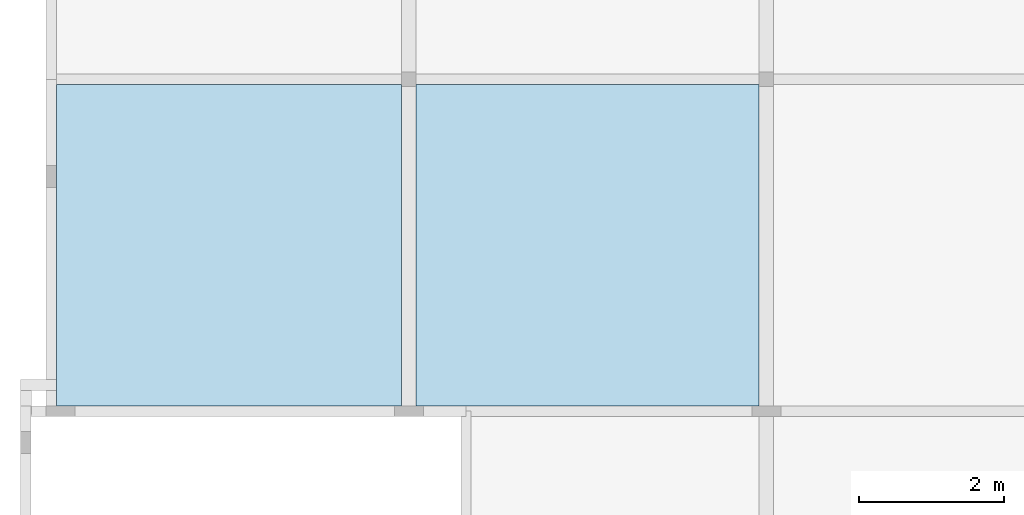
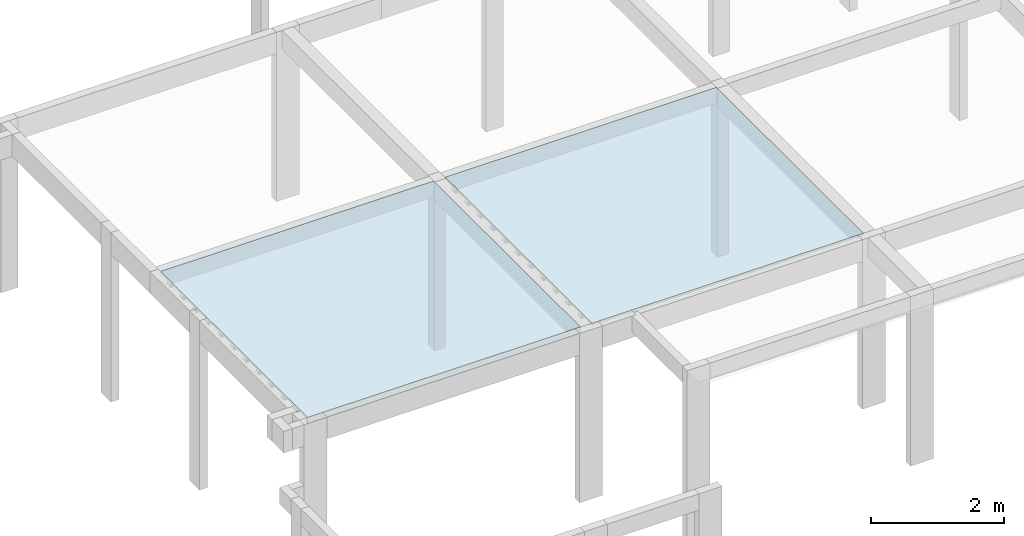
# One storey, part 3 of 7: 2 slabs.
"""IFC4 building model written with IfcOpenShell, lengths in centimetres."""

from ifc_helpers import new_model, si_unit, derived_unit, frame, origin_with_axes, place, context, project, spatial, polyline, outline, extrude, faceted_brep, material, element, save


model = new_model("IFC4")

# Units and contexts
model_context = context("Model", 3, precision=1e-05, world=origin_with_axes(), identifier="Body")
ifc_project = project(units=[si_unit("LENGTHUNIT", "METRE", prefix="CENTI"), si_unit("VOLUMEUNIT", "CUBIC_METRE"), si_unit("AREAUNIT", "SQUARE_METRE"), si_unit("POWERUNIT", "WATT"), si_unit("LUMINOUSFLUXUNIT", "LUMEN"), si_unit("ELECTRICCURRENTUNIT", "AMPERE"), si_unit("PRESSUREUNIT", "PASCAL", prefix="KILO"), si_unit("MASSUNIT", "GRAM", prefix="KILO"), si_unit("PLANEANGLEUNIT", "RADIAN"), derived_unit("VOLUMETRICFLOWRATEUNIT", [(si_unit("LENGTHUNIT", "METRE"), 3), (si_unit("TIMEUNIT", "SECOND"), -1)])], contexts=[model_context])

# Site, building, storey
site_placement = place(None, origin_with_axes())
site = spatial("IfcSite", under=ifc_project, at=site_placement)
building_placement = place(site_placement, frame((0.0, 0.0, 24.0)))
building = spatial("IfcBuilding", under=site, at=building_placement)
storey_placement = place(building_placement, frame((0.0, 0.0, 312.0), z_axis=(0.0, 0.0, 1.0), x_axis=(1.0, 0.0, 0.0)))
storey = spatial("IfcBuildingStorey", under=building, at=storey_placement, Name="RESPALDO", CompositionType="ELEMENT", Elevation=336.0)

# Slabs
ifc_material = material(Name="Concreto")
slab_1_placement = place(storey_placement, frame((271.28, 509.63, 0.0), z_axis=(0.0, 0.0, 1.0), x_axis=(1.0, 0.0, 0.0)))
element("IfcSlab", 1, at=slab_1_placement, inside=storey, material=ifc_material, Name="L7", PredefinedType="FLOOR", context=model_context, shape_type="SolidModel", body=[
    extrude(outline(polyline([(237.78, 221.63), (-237.78, 221.63), (-237.78, -221.63), (237.78, -221.63), (237.78, 221.63), (237.78, 221.63)])), frame((0.0, 0.0, -4.0), z_axis=(0.0, 0.0, 1.0), x_axis=(1.0, 0.0, 0.0)), (0.0, 0.0, 1.0), 4.0),
    faceted_brep([(-237.78, -217.63, -12.0), (237.78, -217.63, -12.0), (237.78, -221.63, -12.0), (-237.78, -221.63, -12.0), (-237.78, -221.63, -4.0), (237.78, -221.63, -4.0), (237.78, -217.63, -4.0), (-237.78, -217.63, -4.0)], [[[0, 1, 2, 3]], [[4, 5, 6, 7]], [[4, 3, 5]], [[3, 2, 5]], [[5, 2, 6]], [[2, 1, 6]], [[6, 1, 7]], [[1, 0, 7]], [[7, 0, 4]], [[0, 3, 4]]]),
    faceted_brep([(-237.78, -216.13, -12.0), (237.78, -216.13, -12.0), (237.78, -217.63, -12.0), (-237.78, -217.63, -12.0), (-237.78, -217.63, -9.0), (237.78, -217.63, -9.0), (237.78, -216.13, -9.0), (-237.78, -216.13, -9.0)], [[[0, 1, 2, 3]], [[4, 5, 6, 7]], [[4, 3, 5]], [[3, 2, 5]], [[5, 2, 6]], [[2, 1, 6]], [[6, 1, 7]], [[1, 0, 7]], [[7, 0, 4]], [[0, 3, 4]]]),
    faceted_brep([(-237.78, -179.63, -12.0), (237.78, -179.63, -12.0), (237.78, -187.63, -12.0), (-237.78, -187.63, -12.0), (-237.78, -187.63, -4.0), (237.78, -187.63, -4.0), (237.78, -179.63, -4.0), (-237.78, -179.63, -4.0)], [[[0, 1, 2, 3]], [[4, 5, 6, 7]], [[4, 3, 5]], [[3, 2, 5]], [[5, 2, 6]], [[2, 1, 6]], [[6, 1, 7]], [[1, 0, 7]], [[7, 0, 4]], [[0, 3, 4]]]),
    faceted_brep([(-237.78, -178.13, -12.0), (237.78, -178.13, -12.0), (237.78, -179.63, -12.0), (-237.78, -179.63, -12.0), (-237.78, -179.63, -9.0), (237.78, -179.63, -9.0), (237.78, -178.13, -9.0), (-237.78, -178.13, -9.0)], [[[0, 1, 2, 3]], [[4, 5, 6, 7]], [[4, 3, 5]], [[3, 2, 5]], [[5, 2, 6]], [[2, 1, 6]], [[6, 1, 7]], [[1, 0, 7]], [[7, 0, 4]], [[0, 3, 4]]]),
    faceted_brep([(-237.78, -187.63, -12.0), (237.78, -187.63, -12.0), (237.78, -189.13, -12.0), (-237.78, -189.13, -12.0), (-237.78, -189.13, -9.0), (237.78, -189.13, -9.0), (237.78, -187.63, -9.0), (-237.78, -187.63, -9.0)], [[[0, 1, 2, 3]], [[4, 5, 6, 7]], [[4, 3, 5]], [[3, 2, 5]], [[5, 2, 6]], [[2, 1, 6]], [[6, 1, 7]], [[1, 0, 7]], [[7, 0, 4]], [[0, 3, 4]]]),
    faceted_brep([(-237.78, -141.63, -12.0), (237.78, -141.63, -12.0), (237.78, -149.63, -12.0), (-237.78, -149.63, -12.0), (-237.78, -149.63, -4.0), (237.78, -149.63, -4.0), (237.78, -141.63, -4.0), (-237.78, -141.63, -4.0)], [[[0, 1, 2, 3]], [[4, 5, 6, 7]], [[4, 3, 5]], [[3, 2, 5]], [[5, 2, 6]], [[2, 1, 6]], [[6, 1, 7]], [[1, 0, 7]], [[7, 0, 4]], [[0, 3, 4]]]),
    faceted_brep([(-237.78, -140.13, -12.0), (237.78, -140.13, -12.0), (237.78, -141.63, -12.0), (-237.78, -141.63, -12.0), (-237.78, -141.63, -9.0), (237.78, -141.63, -9.0), (237.78, -140.13, -9.0), (-237.78, -140.13, -9.0)], [[[0, 1, 2, 3]], [[4, 5, 6, 7]], [[4, 3, 5]], [[3, 2, 5]], [[5, 2, 6]], [[2, 1, 6]], [[6, 1, 7]], [[1, 0, 7]], [[7, 0, 4]], [[0, 3, 4]]]),
    faceted_brep([(-237.78, -149.63, -12.0), (237.78, -149.63, -12.0), (237.78, -151.13, -12.0), (-237.78, -151.13, -12.0), (-237.78, -151.13, -9.0), (237.78, -151.13, -9.0), (237.78, -149.63, -9.0), (-237.78, -149.63, -9.0)], [[[0, 1, 2, 3]], [[4, 5, 6, 7]], [[4, 3, 5]], [[3, 2, 5]], [[5, 2, 6]], [[2, 1, 6]], [[6, 1, 7]], [[1, 0, 7]], [[7, 0, 4]], [[0, 3, 4]]]),
    faceted_brep([(-237.78, -103.63, -12.0), (237.78, -103.63, -12.0), (237.78, -111.63, -12.0), (-237.78, -111.63, -12.0), (-237.78, -111.63, -4.0), (237.78, -111.63, -4.0), (237.78, -103.63, -4.0), (-237.78, -103.63, -4.0)], [[[0, 1, 2, 3]], [[4, 5, 6, 7]], [[4, 3, 5]], [[3, 2, 5]], [[5, 2, 6]], [[2, 1, 6]], [[6, 1, 7]], [[1, 0, 7]], [[7, 0, 4]], [[0, 3, 4]]]),
    faceted_brep([(-237.78, -102.13, -12.0), (237.78, -102.13, -12.0), (237.78, -103.63, -12.0), (-237.78, -103.63, -12.0), (-237.78, -103.63, -9.0), (237.78, -103.63, -9.0), (237.78, -102.13, -9.0), (-237.78, -102.13, -9.0)], [[[0, 1, 2, 3]], [[4, 5, 6, 7]], [[4, 3, 5]], [[3, 2, 5]], [[5, 2, 6]], [[2, 1, 6]], [[6, 1, 7]], [[1, 0, 7]], [[7, 0, 4]], [[0, 3, 4]]]),
    faceted_brep([(-237.78, -111.63, -12.0), (237.78, -111.63, -12.0), (237.78, -113.13, -12.0), (-237.78, -113.13, -12.0), (-237.78, -113.13, -9.0), (237.78, -113.13, -9.0), (237.78, -111.63, -9.0), (-237.78, -111.63, -9.0)], [[[0, 1, 2, 3]], [[4, 5, 6, 7]], [[4, 3, 5]], [[3, 2, 5]], [[5, 2, 6]], [[2, 1, 6]], [[6, 1, 7]], [[1, 0, 7]], [[7, 0, 4]], [[0, 3, 4]]]),
    faceted_brep([(-237.78, -65.63, -12.0), (237.78, -65.63, -12.0), (237.78, -73.63, -12.0), (-237.78, -73.63, -12.0), (-237.78, -73.63, -4.0), (237.78, -73.63, -4.0), (237.78, -65.63, -4.0), (-237.78, -65.63, -4.0)], [[[0, 1, 2, 3]], [[4, 5, 6, 7]], [[4, 3, 5]], [[3, 2, 5]], [[5, 2, 6]], [[2, 1, 6]], [[6, 1, 7]], [[1, 0, 7]], [[7, 0, 4]], [[0, 3, 4]]]),
    faceted_brep([(-237.78, -64.13, -12.0), (237.78, -64.13, -12.0), (237.78, -65.63, -12.0), (-237.78, -65.63, -12.0), (-237.78, -65.63, -9.0), (237.78, -65.63, -9.0), (237.78, -64.13, -9.0), (-237.78, -64.13, -9.0)], [[[0, 1, 2, 3]], [[4, 5, 6, 7]], [[4, 3, 5]], [[3, 2, 5]], [[5, 2, 6]], [[2, 1, 6]], [[6, 1, 7]], [[1, 0, 7]], [[7, 0, 4]], [[0, 3, 4]]]),
    faceted_brep([(-237.78, -73.63, -12.0), (237.78, -73.63, -12.0), (237.78, -75.13, -12.0), (-237.78, -75.13, -12.0), (-237.78, -75.13, -9.0), (237.78, -75.13, -9.0), (237.78, -73.63, -9.0), (-237.78, -73.63, -9.0)], [[[0, 1, 2, 3]], [[4, 5, 6, 7]], [[4, 3, 5]], [[3, 2, 5]], [[5, 2, 6]], [[2, 1, 6]], [[6, 1, 7]], [[1, 0, 7]], [[7, 0, 4]], [[0, 3, 4]]]),
    faceted_brep([(-237.78, -27.63, -12.0), (237.78, -27.63, -12.0), (237.78, -35.63, -12.0), (-237.78, -35.63, -12.0), (-237.78, -35.63, -4.0), (237.78, -35.63, -4.0), (237.78, -27.63, -4.0), (-237.78, -27.63, -4.0)], [[[0, 1, 2, 3]], [[4, 5, 6, 7]], [[4, 3, 5]], [[3, 2, 5]], [[5, 2, 6]], [[2, 1, 6]], [[6, 1, 7]], [[1, 0, 7]], [[7, 0, 4]], [[0, 3, 4]]]),
    faceted_brep([(-237.78, -26.13, -12.0), (237.78, -26.13, -12.0), (237.78, -27.63, -12.0), (-237.78, -27.63, -12.0), (-237.78, -27.63, -9.0), (237.78, -27.63, -9.0), (237.78, -26.13, -9.0), (-237.78, -26.13, -9.0)], [[[0, 1, 2, 3]], [[4, 5, 6, 7]], [[4, 3, 5]], [[3, 2, 5]], [[5, 2, 6]], [[2, 1, 6]], [[6, 1, 7]], [[1, 0, 7]], [[7, 0, 4]], [[0, 3, 4]]]),
    faceted_brep([(-237.78, -35.63, -12.0), (237.78, -35.63, -12.0), (237.78, -37.13, -12.0), (-237.78, -37.13, -12.0), (-237.78, -37.13, -9.0), (237.78, -37.13, -9.0), (237.78, -35.63, -9.0), (-237.78, -35.63, -9.0)], [[[0, 1, 2, 3]], [[4, 5, 6, 7]], [[4, 3, 5]], [[3, 2, 5]], [[5, 2, 6]], [[2, 1, 6]], [[6, 1, 7]], [[1, 0, 7]], [[7, 0, 4]], [[0, 3, 4]]]),
    faceted_brep([(-237.78, 10.37, -12.0), (237.78, 10.37, -12.0), (237.78, 2.37, -12.0), (-237.78, 2.37, -12.0), (-237.78, 2.37, -4.0), (237.78, 2.37, -4.0), (237.78, 10.37, -4.0), (-237.78, 10.37, -4.0)], [[[0, 1, 2, 3]], [[4, 5, 6, 7]], [[4, 3, 5]], [[3, 2, 5]], [[5, 2, 6]], [[2, 1, 6]], [[6, 1, 7]], [[1, 0, 7]], [[7, 0, 4]], [[0, 3, 4]]]),
    faceted_brep([(-237.78, 11.87, -12.0), (237.78, 11.87, -12.0), (237.78, 10.37, -12.0), (-237.78, 10.37, -12.0), (-237.78, 10.37, -9.0), (237.78, 10.37, -9.0), (237.78, 11.87, -9.0), (-237.78, 11.87, -9.0)], [[[0, 1, 2, 3]], [[4, 5, 6, 7]], [[4, 3, 5]], [[3, 2, 5]], [[5, 2, 6]], [[2, 1, 6]], [[6, 1, 7]], [[1, 0, 7]], [[7, 0, 4]], [[0, 3, 4]]]),
    faceted_brep([(-237.78, 2.37, -12.0), (237.78, 2.37, -12.0), (237.78, 0.87, -12.0), (-237.78, 0.87, -12.0), (-237.78, 0.87, -9.0), (237.78, 0.87, -9.0), (237.78, 2.37, -9.0), (-237.78, 2.37, -9.0)], [[[0, 1, 2, 3]], [[4, 5, 6, 7]], [[4, 3, 5]], [[3, 2, 5]], [[5, 2, 6]], [[2, 1, 6]], [[6, 1, 7]], [[1, 0, 7]], [[7, 0, 4]], [[0, 3, 4]]]),
    faceted_brep([(-237.78, 48.37, -12.0), (237.78, 48.37, -12.0), (237.78, 40.37, -12.0), (-237.78, 40.37, -12.0), (-237.78, 40.37, -4.0), (237.78, 40.37, -4.0), (237.78, 48.37, -4.0), (-237.78, 48.37, -4.0)], [[[0, 1, 2, 3]], [[4, 5, 6, 7]], [[4, 3, 5]], [[3, 2, 5]], [[5, 2, 6]], [[2, 1, 6]], [[6, 1, 7]], [[1, 0, 7]], [[7, 0, 4]], [[0, 3, 4]]]),
    faceted_brep([(-237.78, 49.87, -12.0), (237.78, 49.87, -12.0), (237.78, 48.37, -12.0), (-237.78, 48.37, -12.0), (-237.78, 48.37, -9.0), (237.78, 48.37, -9.0), (237.78, 49.87, -9.0), (-237.78, 49.87, -9.0)], [[[0, 1, 2, 3]], [[4, 5, 6, 7]], [[4, 3, 5]], [[3, 2, 5]], [[5, 2, 6]], [[2, 1, 6]], [[6, 1, 7]], [[1, 0, 7]], [[7, 0, 4]], [[0, 3, 4]]]),
    faceted_brep([(-237.78, 40.37, -12.0), (237.78, 40.37, -12.0), (237.78, 38.87, -12.0), (-237.78, 38.87, -12.0), (-237.78, 38.87, -9.0), (237.78, 38.87, -9.0), (237.78, 40.37, -9.0), (-237.78, 40.37, -9.0)], [[[0, 1, 2, 3]], [[4, 5, 6, 7]], [[4, 3, 5]], [[3, 2, 5]], [[5, 2, 6]], [[2, 1, 6]], [[6, 1, 7]], [[1, 0, 7]], [[7, 0, 4]], [[0, 3, 4]]]),
    faceted_brep([(-237.78, 86.37, -12.0), (237.78, 86.37, -12.0), (237.78, 78.37, -12.0), (-237.78, 78.37, -12.0), (-237.78, 78.37, -4.0), (237.78, 78.37, -4.0), (237.78, 86.37, -4.0), (-237.78, 86.37, -4.0)], [[[0, 1, 2, 3]], [[4, 5, 6, 7]], [[4, 3, 5]], [[3, 2, 5]], [[5, 2, 6]], [[2, 1, 6]], [[6, 1, 7]], [[1, 0, 7]], [[7, 0, 4]], [[0, 3, 4]]]),
    faceted_brep([(-237.78, 87.87, -12.0), (237.78, 87.87, -12.0), (237.78, 86.37, -12.0), (-237.78, 86.37, -12.0), (-237.78, 86.37, -9.0), (237.78, 86.37, -9.0), (237.78, 87.87, -9.0), (-237.78, 87.87, -9.0)], [[[0, 1, 2, 3]], [[4, 5, 6, 7]], [[4, 3, 5]], [[3, 2, 5]], [[5, 2, 6]], [[2, 1, 6]], [[6, 1, 7]], [[1, 0, 7]], [[7, 0, 4]], [[0, 3, 4]]]),
    faceted_brep([(-237.78, 78.37, -12.0), (237.78, 78.37, -12.0), (237.78, 76.87, -12.0), (-237.78, 76.87, -12.0), (-237.78, 76.87, -9.0), (237.78, 76.87, -9.0), (237.78, 78.37, -9.0), (-237.78, 78.37, -9.0)], [[[0, 1, 2, 3]], [[4, 5, 6, 7]], [[4, 3, 5]], [[3, 2, 5]], [[5, 2, 6]], [[2, 1, 6]], [[6, 1, 7]], [[1, 0, 7]], [[7, 0, 4]], [[0, 3, 4]]]),
    faceted_brep([(-237.78, 124.37, -12.0), (237.78, 124.37, -12.0), (237.78, 116.37, -12.0), (-237.78, 116.37, -12.0), (-237.78, 116.37, -4.0), (237.78, 116.37, -4.0), (237.78, 124.37, -4.0), (-237.78, 124.37, -4.0)], [[[0, 1, 2, 3]], [[4, 5, 6, 7]], [[4, 3, 5]], [[3, 2, 5]], [[5, 2, 6]], [[2, 1, 6]], [[6, 1, 7]], [[1, 0, 7]], [[7, 0, 4]], [[0, 3, 4]]]),
    faceted_brep([(-237.78, 125.87, -12.0), (237.78, 125.87, -12.0), (237.78, 124.37, -12.0), (-237.78, 124.37, -12.0), (-237.78, 124.37, -9.0), (237.78, 124.37, -9.0), (237.78, 125.87, -9.0), (-237.78, 125.87, -9.0)], [[[0, 1, 2, 3]], [[4, 5, 6, 7]], [[4, 3, 5]], [[3, 2, 5]], [[5, 2, 6]], [[2, 1, 6]], [[6, 1, 7]], [[1, 0, 7]], [[7, 0, 4]], [[0, 3, 4]]]),
    faceted_brep([(-237.78, 116.37, -12.0), (237.78, 116.37, -12.0), (237.78, 114.87, -12.0), (-237.78, 114.87, -12.0), (-237.78, 114.87, -9.0), (237.78, 114.87, -9.0), (237.78, 116.37, -9.0), (-237.78, 116.37, -9.0)], [[[0, 1, 2, 3]], [[4, 5, 6, 7]], [[4, 3, 5]], [[3, 2, 5]], [[5, 2, 6]], [[2, 1, 6]], [[6, 1, 7]], [[1, 0, 7]], [[7, 0, 4]], [[0, 3, 4]]]),
    faceted_brep([(-237.78, 162.37, -12.0), (237.78, 162.37, -12.0), (237.78, 154.37, -12.0), (-237.78, 154.37, -12.0), (-237.78, 154.37, -4.0), (237.78, 154.37, -4.0), (237.78, 162.37, -4.0), (-237.78, 162.37, -4.0)], [[[0, 1, 2, 3]], [[4, 5, 6, 7]], [[4, 3, 5]], [[3, 2, 5]], [[5, 2, 6]], [[2, 1, 6]], [[6, 1, 7]], [[1, 0, 7]], [[7, 0, 4]], [[0, 3, 4]]]),
    faceted_brep([(-237.78, 163.87, -12.0), (237.78, 163.87, -12.0), (237.78, 162.37, -12.0), (-237.78, 162.37, -12.0), (-237.78, 162.37, -9.0), (237.78, 162.37, -9.0), (237.78, 163.87, -9.0), (-237.78, 163.87, -9.0)], [[[0, 1, 2, 3]], [[4, 5, 6, 7]], [[4, 3, 5]], [[3, 2, 5]], [[5, 2, 6]], [[2, 1, 6]], [[6, 1, 7]], [[1, 0, 7]], [[7, 0, 4]], [[0, 3, 4]]]),
    faceted_brep([(-237.78, 154.37, -12.0), (237.78, 154.37, -12.0), (237.78, 152.87, -12.0), (-237.78, 152.87, -12.0), (-237.78, 152.87, -9.0), (237.78, 152.87, -9.0), (237.78, 154.37, -9.0), (-237.78, 154.37, -9.0)], [[[0, 1, 2, 3]], [[4, 5, 6, 7]], [[4, 3, 5]], [[3, 2, 5]], [[5, 2, 6]], [[2, 1, 6]], [[6, 1, 7]], [[1, 0, 7]], [[7, 0, 4]], [[0, 3, 4]]]),
    faceted_brep([(-237.78, 200.37, -12.0), (237.78, 200.37, -12.0), (237.78, 192.37, -12.0), (-237.78, 192.37, -12.0), (-237.78, 192.37, -4.0), (237.78, 192.37, -4.0), (237.78, 200.37, -4.0), (-237.78, 200.37, -4.0)], [[[0, 1, 2, 3]], [[4, 5, 6, 7]], [[4, 3, 5]], [[3, 2, 5]], [[5, 2, 6]], [[2, 1, 6]], [[6, 1, 7]], [[1, 0, 7]], [[7, 0, 4]], [[0, 3, 4]]]),
    faceted_brep([(-237.78, 201.87, -12.0), (237.78, 201.87, -12.0), (237.78, 200.37, -12.0), (-237.78, 200.37, -12.0), (-237.78, 200.37, -9.0), (237.78, 200.37, -9.0), (237.78, 201.87, -9.0), (-237.78, 201.87, -9.0)], [[[0, 1, 2, 3]], [[4, 5, 6, 7]], [[4, 3, 5]], [[3, 2, 5]], [[5, 2, 6]], [[2, 1, 6]], [[6, 1, 7]], [[1, 0, 7]], [[7, 0, 4]], [[0, 3, 4]]]),
    faceted_brep([(-237.78, 192.37, -12.0), (237.78, 192.37, -12.0), (237.78, 190.87, -12.0), (-237.78, 190.87, -12.0), (-237.78, 190.87, -9.0), (237.78, 190.87, -9.0), (237.78, 192.37, -9.0), (-237.78, 192.37, -9.0)], [[[0, 1, 2, 3]], [[4, 5, 6, 7]], [[4, 3, 5]], [[3, 2, 5]], [[5, 2, 6]], [[2, 1, 6]], [[6, 1, 7]], [[1, 0, 7]], [[7, 0, 4]], [[0, 3, 4]]]),
])
slab_2_placement = place(storey_placement, frame((765.345, 509.63, 0.0), z_axis=(0.0, 0.0, 1.0), x_axis=(1.0, 0.0, 0.0)))
element("IfcSlab", 2, at=slab_2_placement, inside=storey, material=ifc_material, Name="L8", PredefinedType="FLOOR", context=model_context, shape_type="SolidModel", body=[
    extrude(outline(polyline([(236.285, -221.629), (236.284, 221.63), (-236.284, 221.63), (-236.285, -221.63), (236.285, -221.629), (236.285, -221.629)])), frame((0.0, 0.0, -4.0), z_axis=(0.0, 0.0, 1.0), x_axis=(1.0, 0.0, 0.0)), (0.0, 0.0, 1.0), 4.0),
    faceted_brep([(-236.2845, -179.63, -12.0), (236.2845, -179.63, -12.0), (236.2845, -187.63, -12.0), (-236.2845, -187.63, -12.0), (-236.2845, -187.63, -4.0), (236.2845, -187.63, -4.0), (236.2845, -179.63, -4.0), (-236.2845, -179.63, -4.0)], [[[0, 1, 2, 3]], [[4, 5, 6, 7]], [[4, 3, 5]], [[3, 2, 5]], [[5, 2, 6]], [[2, 1, 6]], [[6, 1, 7]], [[1, 0, 7]], [[7, 0, 4]], [[0, 3, 4]]]),
    faceted_brep([(-236.2845, -178.13, -12.0), (236.2845, -178.13, -12.0), (236.2845, -179.63, -12.0), (-236.2845, -179.63, -12.0), (-236.2845, -179.63, -9.0), (236.2845, -179.63, -9.0), (236.2845, -178.13, -9.0), (-236.2845, -178.13, -9.0)], [[[0, 1, 2, 3]], [[4, 5, 6, 7]], [[4, 3, 5]], [[3, 2, 5]], [[5, 2, 6]], [[2, 1, 6]], [[6, 1, 7]], [[1, 0, 7]], [[7, 0, 4]], [[0, 3, 4]]]),
    faceted_brep([(-236.2845, -187.63, -12.0), (236.2845, -187.63, -12.0), (236.2845, -189.13, -12.0), (-236.2845, -189.13, -12.0), (-236.2845, -189.13, -9.0), (236.2845, -189.13, -9.0), (236.2845, -187.63, -9.0), (-236.2845, -187.63, -9.0)], [[[0, 1, 2, 3]], [[4, 5, 6, 7]], [[4, 3, 5]], [[3, 2, 5]], [[5, 2, 6]], [[2, 1, 6]], [[6, 1, 7]], [[1, 0, 7]], [[7, 0, 4]], [[0, 3, 4]]]),
    faceted_brep([(-236.2845, -141.63, -12.0), (236.2845, -141.63, -12.0), (236.2845, -149.63, -12.0), (-236.2845, -149.63, -12.0), (-236.2845, -149.63, -4.0), (236.2845, -149.63, -4.0), (236.2845, -141.63, -4.0), (-236.2845, -141.63, -4.0)], [[[0, 1, 2, 3]], [[4, 5, 6, 7]], [[4, 3, 5]], [[3, 2, 5]], [[5, 2, 6]], [[2, 1, 6]], [[6, 1, 7]], [[1, 0, 7]], [[7, 0, 4]], [[0, 3, 4]]]),
    faceted_brep([(-236.2845, -140.13, -12.0), (236.2845, -140.13, -12.0), (236.2845, -141.63, -12.0), (-236.2845, -141.63, -12.0), (-236.2845, -141.63, -9.0), (236.2845, -141.63, -9.0), (236.2845, -140.13, -9.0), (-236.2845, -140.13, -9.0)], [[[0, 1, 2, 3]], [[4, 5, 6, 7]], [[4, 3, 5]], [[3, 2, 5]], [[5, 2, 6]], [[2, 1, 6]], [[6, 1, 7]], [[1, 0, 7]], [[7, 0, 4]], [[0, 3, 4]]]),
    faceted_brep([(-236.2845, -149.63, -12.0), (236.2845, -149.63, -12.0), (236.2845, -151.13, -12.0), (-236.2845, -151.13, -12.0), (-236.2845, -151.13, -9.0), (236.2845, -151.13, -9.0), (236.2845, -149.63, -9.0), (-236.2845, -149.63, -9.0)], [[[0, 1, 2, 3]], [[4, 5, 6, 7]], [[4, 3, 5]], [[3, 2, 5]], [[5, 2, 6]], [[2, 1, 6]], [[6, 1, 7]], [[1, 0, 7]], [[7, 0, 4]], [[0, 3, 4]]]),
    faceted_brep([(-236.2845, -103.63, -12.0), (236.2845, -103.63, -12.0), (236.2845, -111.63, -12.0), (-236.2845, -111.63, -12.0), (-236.2845, -111.63, -4.0), (236.2845, -111.63, -4.0), (236.2845, -103.63, -4.0), (-236.2845, -103.63, -4.0)], [[[0, 1, 2, 3]], [[4, 5, 6, 7]], [[4, 3, 5]], [[3, 2, 5]], [[5, 2, 6]], [[2, 1, 6]], [[6, 1, 7]], [[1, 0, 7]], [[7, 0, 4]], [[0, 3, 4]]]),
    faceted_brep([(-236.2845, -102.13, -12.0), (236.2845, -102.13, -12.0), (236.2845, -103.63, -12.0), (-236.2845, -103.63, -12.0), (-236.2845, -103.63, -9.0), (236.2845, -103.63, -9.0), (236.2845, -102.13, -9.0), (-236.2845, -102.13, -9.0)], [[[0, 1, 2, 3]], [[4, 5, 6, 7]], [[4, 3, 5]], [[3, 2, 5]], [[5, 2, 6]], [[2, 1, 6]], [[6, 1, 7]], [[1, 0, 7]], [[7, 0, 4]], [[0, 3, 4]]]),
    faceted_brep([(-236.2845, -111.63, -12.0), (236.2845, -111.63, -12.0), (236.2845, -113.13, -12.0), (-236.2845, -113.13, -12.0), (-236.2845, -113.13, -9.0), (236.2845, -113.13, -9.0), (236.2845, -111.63, -9.0), (-236.2845, -111.63, -9.0)], [[[0, 1, 2, 3]], [[4, 5, 6, 7]], [[4, 3, 5]], [[3, 2, 5]], [[5, 2, 6]], [[2, 1, 6]], [[6, 1, 7]], [[1, 0, 7]], [[7, 0, 4]], [[0, 3, 4]]]),
    faceted_brep([(-236.2845, -65.63, -12.0), (236.2845, -65.63, -12.0), (236.2845, -73.63, -12.0), (-236.2845, -73.63, -12.0), (-236.2845, -73.63, -4.0), (236.2845, -73.63, -4.0), (236.2845, -65.63, -4.0), (-236.2845, -65.63, -4.0)], [[[0, 1, 2, 3]], [[4, 5, 6, 7]], [[4, 3, 5]], [[3, 2, 5]], [[5, 2, 6]], [[2, 1, 6]], [[6, 1, 7]], [[1, 0, 7]], [[7, 0, 4]], [[0, 3, 4]]]),
    faceted_brep([(-236.2845, -64.13, -12.0), (236.2845, -64.13, -12.0), (236.2845, -65.63, -12.0), (-236.2845, -65.63, -12.0), (-236.2845, -65.63, -9.0), (236.2845, -65.63, -9.0), (236.2845, -64.13, -9.0), (-236.2845, -64.13, -9.0)], [[[0, 1, 2, 3]], [[4, 5, 6, 7]], [[4, 3, 5]], [[3, 2, 5]], [[5, 2, 6]], [[2, 1, 6]], [[6, 1, 7]], [[1, 0, 7]], [[7, 0, 4]], [[0, 3, 4]]]),
    faceted_brep([(-236.2845, -73.63, -12.0), (236.2845, -73.63, -12.0), (236.2845, -75.13, -12.0), (-236.2845, -75.13, -12.0), (-236.2845, -75.13, -9.0), (236.2845, -75.13, -9.0), (236.2845, -73.63, -9.0), (-236.2845, -73.63, -9.0)], [[[0, 1, 2, 3]], [[4, 5, 6, 7]], [[4, 3, 5]], [[3, 2, 5]], [[5, 2, 6]], [[2, 1, 6]], [[6, 1, 7]], [[1, 0, 7]], [[7, 0, 4]], [[0, 3, 4]]]),
    faceted_brep([(-236.2845, -27.63, -12.0), (236.2845, -27.63, -12.0), (236.2845, -35.63, -12.0), (-236.2845, -35.63, -12.0), (-236.2845, -35.63, -4.0), (236.2845, -35.63, -4.0), (236.2845, -27.63, -4.0), (-236.2845, -27.63, -4.0)], [[[0, 1, 2, 3]], [[4, 5, 6, 7]], [[4, 3, 5]], [[3, 2, 5]], [[5, 2, 6]], [[2, 1, 6]], [[6, 1, 7]], [[1, 0, 7]], [[7, 0, 4]], [[0, 3, 4]]]),
    faceted_brep([(-236.2845, -26.13, -12.0), (236.2845, -26.13, -12.0), (236.2845, -27.63, -12.0), (-236.2845, -27.63, -12.0), (-236.2845, -27.63, -9.0), (236.2845, -27.63, -9.0), (236.2845, -26.13, -9.0), (-236.2845, -26.13, -9.0)], [[[0, 1, 2, 3]], [[4, 5, 6, 7]], [[4, 3, 5]], [[3, 2, 5]], [[5, 2, 6]], [[2, 1, 6]], [[6, 1, 7]], [[1, 0, 7]], [[7, 0, 4]], [[0, 3, 4]]]),
    faceted_brep([(-236.2845, -35.63, -12.0), (236.2845, -35.63, -12.0), (236.2845, -37.13, -12.0), (-236.2845, -37.13, -12.0), (-236.2845, -37.13, -9.0), (236.2845, -37.13, -9.0), (236.2845, -35.63, -9.0), (-236.2845, -35.63, -9.0)], [[[0, 1, 2, 3]], [[4, 5, 6, 7]], [[4, 3, 5]], [[3, 2, 5]], [[5, 2, 6]], [[2, 1, 6]], [[6, 1, 7]], [[1, 0, 7]], [[7, 0, 4]], [[0, 3, 4]]]),
    faceted_brep([(-236.2845, 10.37, -12.0), (236.2845, 10.37, -12.0), (236.2845, 2.37, -12.0), (-236.2845, 2.37, -12.0), (-236.2845, 2.37, -4.0), (236.2845, 2.37, -4.0), (236.2845, 10.37, -4.0), (-236.2845, 10.37, -4.0)], [[[0, 1, 2, 3]], [[4, 5, 6, 7]], [[4, 3, 5]], [[3, 2, 5]], [[5, 2, 6]], [[2, 1, 6]], [[6, 1, 7]], [[1, 0, 7]], [[7, 0, 4]], [[0, 3, 4]]]),
    faceted_brep([(-236.2845, 11.87, -12.0), (236.2845, 11.87, -12.0), (236.2845, 10.37, -12.0), (-236.2845, 10.37, -12.0), (-236.2845, 10.37, -9.0), (236.2845, 10.37, -9.0), (236.2845, 11.87, -9.0), (-236.2845, 11.87, -9.0)], [[[0, 1, 2, 3]], [[4, 5, 6, 7]], [[4, 3, 5]], [[3, 2, 5]], [[5, 2, 6]], [[2, 1, 6]], [[6, 1, 7]], [[1, 0, 7]], [[7, 0, 4]], [[0, 3, 4]]]),
    faceted_brep([(-236.2845, 2.37, -12.0), (236.2845, 2.37, -12.0), (236.2845, 0.87, -12.0), (-236.2845, 0.87, -12.0), (-236.2845, 0.87, -9.0), (236.2845, 0.87, -9.0), (236.2845, 2.37, -9.0), (-236.2845, 2.37, -9.0)], [[[0, 1, 2, 3]], [[4, 5, 6, 7]], [[4, 3, 5]], [[3, 2, 5]], [[5, 2, 6]], [[2, 1, 6]], [[6, 1, 7]], [[1, 0, 7]], [[7, 0, 4]], [[0, 3, 4]]]),
    faceted_brep([(-236.2845, 48.37, -12.0), (236.2845, 48.37, -12.0), (236.2845, 40.37, -12.0), (-236.2845, 40.37, -12.0), (-236.2845, 40.37, -4.0), (236.2845, 40.37, -4.0), (236.2845, 48.37, -4.0), (-236.2845, 48.37, -4.0)], [[[0, 1, 2, 3]], [[4, 5, 6, 7]], [[4, 3, 5]], [[3, 2, 5]], [[5, 2, 6]], [[2, 1, 6]], [[6, 1, 7]], [[1, 0, 7]], [[7, 0, 4]], [[0, 3, 4]]]),
    faceted_brep([(-236.2845, 49.87, -12.0), (236.2845, 49.87, -12.0), (236.2845, 48.37, -12.0), (-236.2845, 48.37, -12.0), (-236.2845, 48.37, -9.0), (236.2845, 48.37, -9.0), (236.2845, 49.87, -9.0), (-236.2845, 49.87, -9.0)], [[[0, 1, 2, 3]], [[4, 5, 6, 7]], [[4, 3, 5]], [[3, 2, 5]], [[5, 2, 6]], [[2, 1, 6]], [[6, 1, 7]], [[1, 0, 7]], [[7, 0, 4]], [[0, 3, 4]]]),
    faceted_brep([(-236.2845, 40.37, -12.0), (236.2845, 40.37, -12.0), (236.2845, 38.87, -12.0), (-236.2845, 38.87, -12.0), (-236.2845, 38.87, -9.0), (236.2845, 38.87, -9.0), (236.2845, 40.37, -9.0), (-236.2845, 40.37, -9.0)], [[[0, 1, 2, 3]], [[4, 5, 6, 7]], [[4, 3, 5]], [[3, 2, 5]], [[5, 2, 6]], [[2, 1, 6]], [[6, 1, 7]], [[1, 0, 7]], [[7, 0, 4]], [[0, 3, 4]]]),
    faceted_brep([(-236.2845, 86.37, -12.0), (236.2845, 86.37, -12.0), (236.2845, 78.37, -12.0), (-236.2845, 78.37, -12.0), (-236.2845, 78.37, -4.0), (236.2845, 78.37, -4.0), (236.2845, 86.37, -4.0), (-236.2845, 86.37, -4.0)], [[[0, 1, 2, 3]], [[4, 5, 6, 7]], [[4, 3, 5]], [[3, 2, 5]], [[5, 2, 6]], [[2, 1, 6]], [[6, 1, 7]], [[1, 0, 7]], [[7, 0, 4]], [[0, 3, 4]]]),
    faceted_brep([(-236.2845, 87.87, -12.0), (236.2845, 87.87, -12.0), (236.2845, 86.37, -12.0), (-236.2845, 86.37, -12.0), (-236.2845, 86.37, -9.0), (236.2845, 86.37, -9.0), (236.2845, 87.87, -9.0), (-236.2845, 87.87, -9.0)], [[[0, 1, 2, 3]], [[4, 5, 6, 7]], [[4, 3, 5]], [[3, 2, 5]], [[5, 2, 6]], [[2, 1, 6]], [[6, 1, 7]], [[1, 0, 7]], [[7, 0, 4]], [[0, 3, 4]]]),
    faceted_brep([(-236.2845, 78.37, -12.0), (236.2845, 78.37, -12.0), (236.2845, 76.87, -12.0), (-236.2845, 76.87, -12.0), (-236.2845, 76.87, -9.0), (236.2845, 76.87, -9.0), (236.2845, 78.37, -9.0), (-236.2845, 78.37, -9.0)], [[[0, 1, 2, 3]], [[4, 5, 6, 7]], [[4, 3, 5]], [[3, 2, 5]], [[5, 2, 6]], [[2, 1, 6]], [[6, 1, 7]], [[1, 0, 7]], [[7, 0, 4]], [[0, 3, 4]]]),
    faceted_brep([(-236.2845, 124.37, -12.0), (236.2845, 124.37, -12.0), (236.2845, 116.37, -12.0), (-236.2845, 116.37, -12.0), (-236.2845, 116.37, -4.0), (236.2845, 116.37, -4.0), (236.2845, 124.37, -4.0), (-236.2845, 124.37, -4.0)], [[[0, 1, 2, 3]], [[4, 5, 6, 7]], [[4, 3, 5]], [[3, 2, 5]], [[5, 2, 6]], [[2, 1, 6]], [[6, 1, 7]], [[1, 0, 7]], [[7, 0, 4]], [[0, 3, 4]]]),
    faceted_brep([(-236.2845, 125.87, -12.0), (236.2845, 125.87, -12.0), (236.2845, 124.37, -12.0), (-236.2845, 124.37, -12.0), (-236.2845, 124.37, -9.0), (236.2845, 124.37, -9.0), (236.2845, 125.87, -9.0), (-236.2845, 125.87, -9.0)], [[[0, 1, 2, 3]], [[4, 5, 6, 7]], [[4, 3, 5]], [[3, 2, 5]], [[5, 2, 6]], [[2, 1, 6]], [[6, 1, 7]], [[1, 0, 7]], [[7, 0, 4]], [[0, 3, 4]]]),
    faceted_brep([(-236.2845, 116.37, -12.0), (236.2845, 116.37, -12.0), (236.2845, 114.87, -12.0), (-236.2845, 114.87, -12.0), (-236.2845, 114.87, -9.0), (236.2845, 114.87, -9.0), (236.2845, 116.37, -9.0), (-236.2845, 116.37, -9.0)], [[[0, 1, 2, 3]], [[4, 5, 6, 7]], [[4, 3, 5]], [[3, 2, 5]], [[5, 2, 6]], [[2, 1, 6]], [[6, 1, 7]], [[1, 0, 7]], [[7, 0, 4]], [[0, 3, 4]]]),
    faceted_brep([(-236.2845, 162.37, -12.0), (236.2845, 162.37, -12.0), (236.2845, 154.37, -12.0), (-236.2845, 154.37, -12.0), (-236.2845, 154.37, -4.0), (236.2845, 154.37, -4.0), (236.2845, 162.37, -4.0), (-236.2845, 162.37, -4.0)], [[[0, 1, 2, 3]], [[4, 5, 6, 7]], [[4, 3, 5]], [[3, 2, 5]], [[5, 2, 6]], [[2, 1, 6]], [[6, 1, 7]], [[1, 0, 7]], [[7, 0, 4]], [[0, 3, 4]]]),
    faceted_brep([(-236.2845, 163.87, -12.0), (236.2845, 163.87, -12.0), (236.2845, 162.37, -12.0), (-236.2845, 162.37, -12.0), (-236.2845, 162.37, -9.0), (236.2845, 162.37, -9.0), (236.2845, 163.87, -9.0), (-236.2845, 163.87, -9.0)], [[[0, 1, 2, 3]], [[4, 5, 6, 7]], [[4, 3, 5]], [[3, 2, 5]], [[5, 2, 6]], [[2, 1, 6]], [[6, 1, 7]], [[1, 0, 7]], [[7, 0, 4]], [[0, 3, 4]]]),
    faceted_brep([(-236.2845, 154.37, -12.0), (236.2845, 154.37, -12.0), (236.2845, 152.87, -12.0), (-236.2845, 152.87, -12.0), (-236.2845, 152.87, -9.0), (236.2845, 152.87, -9.0), (236.2845, 154.37, -9.0), (-236.2845, 154.37, -9.0)], [[[0, 1, 2, 3]], [[4, 5, 6, 7]], [[4, 3, 5]], [[3, 2, 5]], [[5, 2, 6]], [[2, 1, 6]], [[6, 1, 7]], [[1, 0, 7]], [[7, 0, 4]], [[0, 3, 4]]]),
    faceted_brep([(-236.2845, 200.37, -12.0), (236.2845, 200.37, -12.0), (236.2845, 192.37, -12.0), (-236.2845, 192.37, -12.0), (-236.2845, 192.37, -4.0), (236.2845, 192.37, -4.0), (236.2845, 200.37, -4.0), (-236.2845, 200.37, -4.0)], [[[0, 1, 2, 3]], [[4, 5, 6, 7]], [[4, 3, 5]], [[3, 2, 5]], [[5, 2, 6]], [[2, 1, 6]], [[6, 1, 7]], [[1, 0, 7]], [[7, 0, 4]], [[0, 3, 4]]]),
    faceted_brep([(-236.2845, 201.87, -12.0), (236.2845, 201.87, -12.0), (236.2845, 200.37, -12.0), (-236.2845, 200.37, -12.0), (-236.2845, 200.37, -9.0), (236.2845, 200.37, -9.0), (236.2845, 201.87, -9.0), (-236.2845, 201.87, -9.0)], [[[0, 1, 2, 3]], [[4, 5, 6, 7]], [[4, 3, 5]], [[3, 2, 5]], [[5, 2, 6]], [[2, 1, 6]], [[6, 1, 7]], [[1, 0, 7]], [[7, 0, 4]], [[0, 3, 4]]]),
    faceted_brep([(-236.2845, 192.37, -12.0), (236.2845, 192.37, -12.0), (236.2845, 190.87, -12.0), (-236.2845, 190.87, -12.0), (-236.2845, 190.87, -9.0), (236.2845, 190.87, -9.0), (236.2845, 192.37, -9.0), (-236.2845, 192.37, -9.0)], [[[0, 1, 2, 3]], [[4, 5, 6, 7]], [[4, 3, 5]], [[3, 2, 5]], [[5, 2, 6]], [[2, 1, 6]], [[6, 1, 7]], [[1, 0, 7]], [[7, 0, 4]], [[0, 3, 4]]]),
])

save(model, "model.ifc")
